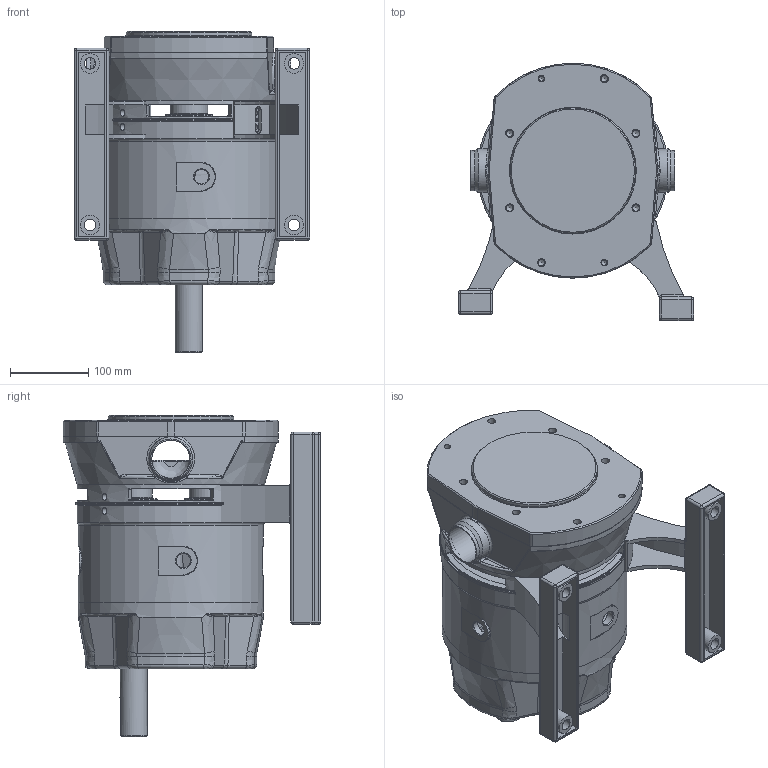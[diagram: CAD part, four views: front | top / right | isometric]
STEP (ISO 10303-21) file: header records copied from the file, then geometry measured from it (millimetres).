
FILE_DESCRIPTION(/* description */ (''),/* implementation_level */ '2;1');
FILE_NAME(/* name */ 'DW+4 commercial use.stp',/* time_stamp */ '2025-10-15T13:49:56+02:00',/* author */ ('WA4RRE'),/* organization */ (''),/* preprocessor_version */ 'ST-DEVELOPER v20',/* originating_system */ 'Autodesk Inventor 2025',/* authorisation */ '');
FILE_SCHEMA (('AUTOMOTIVE_DESIGN { 1 0 10303 214 3 1 1 }'));
Products named in the file (9): DW4_Assembly; H11595; H10207; H10206; H11425_DW4; CVLA1302400; CVLA1364400; noga dw4; noga dw4 druga
Assembly tree (8 placements, depth 2):
  DW4_Assembly
    H11595
    H10207
    H10206
    H11425_DW4
    CVLA1302400
    CVLA1364400
    noga dw4
    noga dw4 druga
Bounding box: 300 x 328 x 409.2 mm (x, y, z)
Volume: 6619265.5 mm3; surface area: 1213349.1 mm2
Topology: 8 solids, 8 shells, 1480 faces, 3743 edges, 2310 vertices
Faces by surface type: cylinder 459, plane 363, bspline 274, torus 188, cone 156, sphere 40
Full cylindrical faces by diameter (mm): 6.647 x14, 8 x2, 8.376 x20, 9 x4, 10 x4, 10.2 x6, 11 x4, 13 x4, 15 x7, 15.376 x2, 16 x4, 17 x2, 18.631 x4, 35 x1, 35.05 x1, 35.5 x2, 35.974 x4, 37.5 x2, 39.925 x2, 39.99 x2, 45 x4, 47 x1, 47.95 x4, 48.6 x2, 49 x2, 50.02 x2, 51.6 x2, 60 x2, 72.75 x2, 77 x2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
Entity records: 58113 total; most frequent: CARTESIAN_POINT 23602, ORIENTED_EDGE 7382, DIRECTION 6761, EDGE_CURVE 3691, AXIS2_PLACEMENT_3D 2757, VERTEX_POINT 2310, EDGE_LOOP 1671, FACE_OUTER_BOUND 1480
